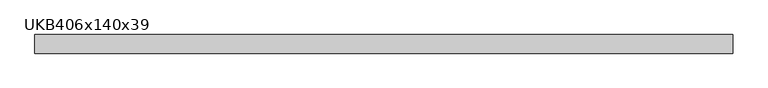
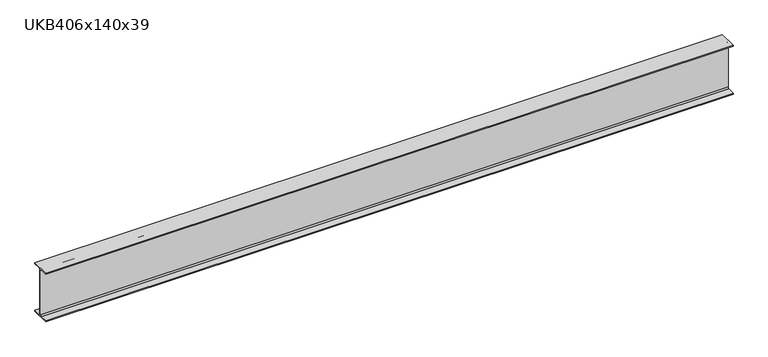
"""IFC4 building model written with IfcOpenShell, lengths in millimetres: beam geometry, UKB-UK Beams : UKB406x140x39."""

from ifc_helpers import new_model, si_unit, point, frame, frame_2d, origin, place, context, project, spatial, polyline, circle_curve, trimmed, segment, composite_curve, outline, extrude, source, transform, mapped, element, save


def ukb406x140x39_ad995a43(model_context):
    return source(origin(), model_context, "Body", "SweptSolid", [
        extrude(outline(composite_curve([segment(polyline([(70.9, -190.4), (70.9, -199.0), (-70.9, -199.0), (-70.9, -190.4), (-13.4, -190.4)]), True, "CONTINUOUS"), segment(trimmed(circle_curve(frame_2d((-13.4, -180.2)), 10.2), [point((-13.4, -190.4))], [point((-3.2, -180.2))], True, "CARTESIAN"), True, "CONTINUOUS"), segment(polyline([(-3.2, -180.2), (-3.2, 180.2)]), True, "CONTINUOUS"), segment(trimmed(circle_curve(frame_2d((-13.4, 180.2)), 10.2), [point((-3.2, 180.2))], [point((-13.4, 190.4))], True, "CARTESIAN"), True, "CONTINUOUS"), segment(polyline([(-13.4, 190.4), (-70.9, 190.4), (-70.9, 199.0), (70.9, 199.0), (70.9, 190.4), (13.4, 190.4)]), True, "CONTINUOUS"), segment(trimmed(circle_curve(frame_2d((13.4, 180.2)), 10.2), [point((13.4, 190.4))], [point((3.2, 180.2))], True, "CARTESIAN"), True, "CONTINUOUS"), segment(polyline([(3.2, 180.2), (3.2, -180.2)]), True, "CONTINUOUS"), segment(trimmed(circle_curve(frame_2d((13.4, -180.2)), 10.2), [point((3.2, -180.2))], [point((13.4, -190.4))], True, "CARTESIAN"), True, "CONTINUOUS"), segment(polyline([(13.4, -190.4), (70.9, -190.4)]), True, "CONTINUOUS")], self_intersect=False)), frame((-2654.0, 0.0, 0.0), z_axis=(1.0, 0.0, 0.0), x_axis=(0.0, 1.0, 0.0)), (0.0, 0.0, 1.0), 5308.0),
    ])


if __name__ == "__main__":
    model = new_model("IFC4")
    model_context = context("Model", 3, world=origin())
    ifc_project = project(units=[si_unit("LENGTHUNIT", "METRE", prefix="MILLI")], contexts=[model_context])
    site = spatial("IfcSite", under=ifc_project)
    building = spatial("IfcBuilding", under=site)
    placement = place(None, origin())
    ukb406x140x39_shape = ukb406x140x39_ad995a43(model_context)
    element("IfcBeam", 1, ObjectType="UKB-UK Beams : UKB406x140x39", at=placement, inside=building, context=model_context, shape_type="MappedRepresentation", body=[
        mapped(ukb406x140x39_shape, transform((0.0, 0.0, 0.0), x_axis=(1.0, 0.0, 0.0), y_axis=(0.0, 1.0, 0.0), z_axis=(0.0, 0.0, 1.0))),
    ])
    save(model, "model.ifc")
